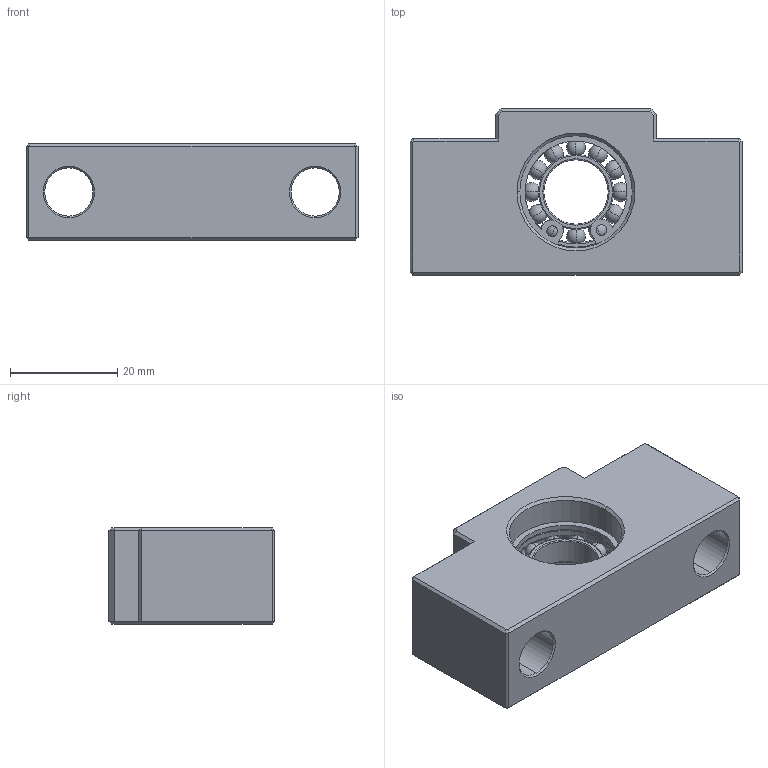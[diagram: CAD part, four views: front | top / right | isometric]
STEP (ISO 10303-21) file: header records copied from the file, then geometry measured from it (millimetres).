
FILE_DESCRIPTION (( 'STEP AP203' ), '1' );
FILE_NAME ('LFA12.STEP', '2009-07-09T02:09:10', ( '無限使用' ), ( 'FDZone.ORG' ), 'SwSTEP 2.0', 'SolidWorks 2008', '' );
FILE_SCHEMA (( 'CONFIG_CONTROL_DESIGN' ));
Length unit declared in the file: millimetre
Products named in the file (1): LFA12
Bounding box: 62 x 31 x 18 mm (x, y, z)
Volume: 20455.7 mm3; surface area: 11299 mm2
Topology: 17 solids, 17 shells, 176 faces, 426 edges, 266 vertices
Faces by surface type: plane 62, cylinder 56, sphere 24, torus 22, cone 12
Entity records: 4783 total; most frequent: DIRECTION 908, CARTESIAN_POINT 773, ORIENTED_EDGE 732, EDGE_CURVE 366, AXIS2_PLACEMENT_3D 365, VERTEX_POINT 230, EDGE_LOOP 200, CIRCLE 188
